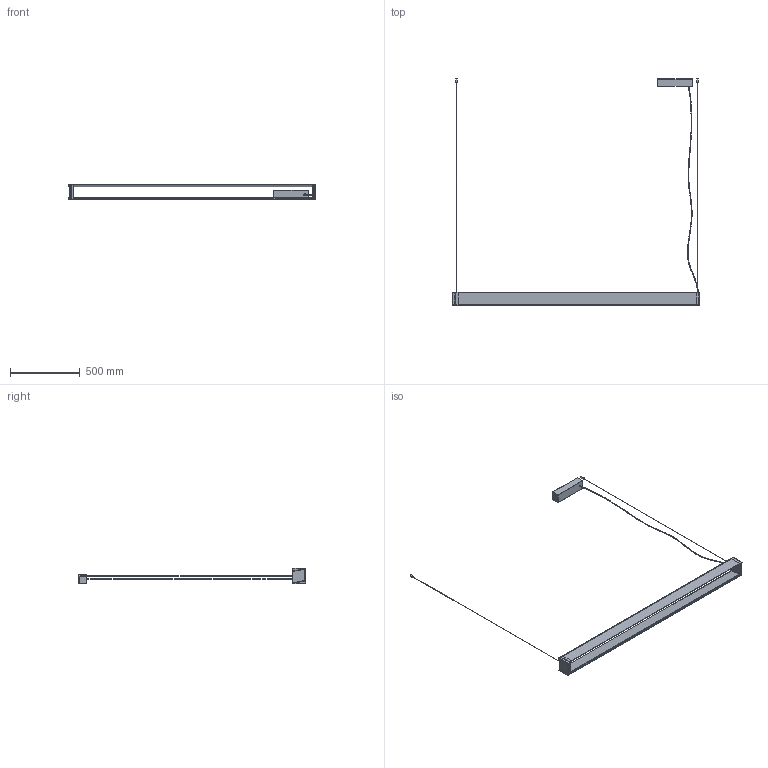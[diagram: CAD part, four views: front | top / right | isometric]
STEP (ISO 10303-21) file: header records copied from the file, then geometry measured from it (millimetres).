
FILE_DESCRIPTION (( 'STEP AP214' ), '1' );
FILE_NAME ('3D_TRU_UPDOWN_PENDANT.STEP', '2018-04-09T15:16:02', ( 'Utente' ), ( '' ), 'SwSTEP 2.0', 'SolidWorks 2016', '' );
FILE_SCHEMA (( 'AUTOMOTIVE_DESIGN' ));
Length unit declared in the file: millimetre
Products named in the file (6): Group6^3D_TRU_UPDOWN_PENDANT; Group3^3D_TRU_UPDOWN_PENDANT; Group2^3D_TRU_UPDOWN_PENDANT; Group1^3D_TRU_UPDOWN_PENDANT; 3D_TRU_UPDOWN_PENDANT; 021FRA000000-1^3D_TRU_UPDOWN_PENDANT
Assembly tree (5 placements, depth 2):
  3D_TRU_UPDOWN_PENDANT
    Group1^3D_TRU_UPDOWN_PENDANT
    Group2^3D_TRU_UPDOWN_PENDANT
    Group3^3D_TRU_UPDOWN_PENDANT
    Group6^3D_TRU_UPDOWN_PENDANT
    021FRA000000-1^3D_TRU_UPDOWN_PENDANT
Bounding box: 1770.83 x 1623.95 x 112 mm (x, y, z)
Volume: 5017096.8 mm3; surface area: 1028464.4 mm2
Topology: 8 solids, 8 shells, 356 faces, 900 edges, 566 vertices
Faces by surface type: plane 202, cylinder 90, bspline 46, sphere 10, torus 8
Entity records: 17890 total; most frequent: CARTESIAN_POINT 8254, ORIENTED_EDGE 1784, DIRECTION 1595, EDGE_CURVE 892, LINE 599, VECTOR 599, VERTEX_POINT 566, AXIS2_PLACEMENT_3D 498
